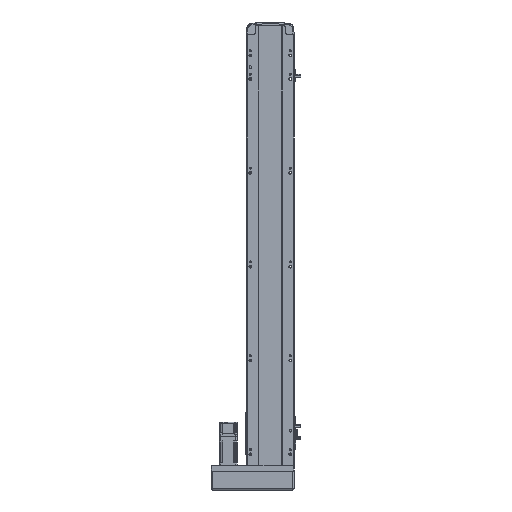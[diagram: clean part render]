
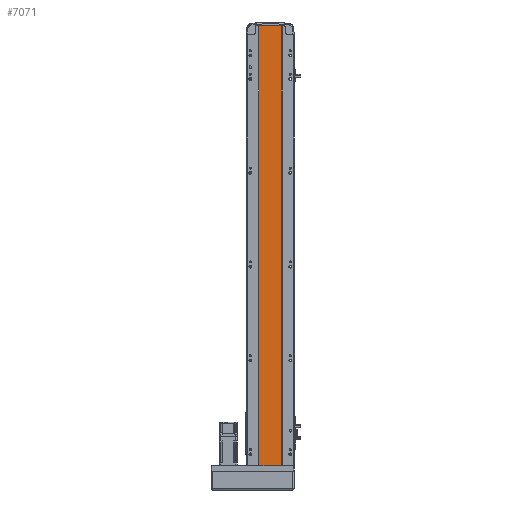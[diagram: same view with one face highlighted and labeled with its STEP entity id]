
A CAD part, front view. The second image highlights one B-rep face of the part: STEP entity #7071.
In plain terms, the highlighted planar face has unit normal (0, -1, 0).
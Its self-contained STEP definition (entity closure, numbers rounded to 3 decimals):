
#2517 = EDGE_CURVE ( 'NONE', #3959, #20239, #6930, .T. ) ;
#3959 = VERTEX_POINT ( 'NONE', #24185 ) ;
#4941 = EDGE_CURVE ( 'NONE', #6150, #14386, #35943, .T. ) ;
#6150 = VERTEX_POINT ( 'NONE', #15553 ) ;
#6930 = LINE ( 'NONE', #9440, #11215 ) ;
#7071 = ADVANCED_FACE ( 'NONE', ( #57685 ), #36446, .F. ) ;
#8954 = DIRECTION ( 'NONE',  ( 0., 0., 1. ) ) ;
#9440 = CARTESIAN_POINT ( 'NONE',  ( 0., 2., 0. ) ) ;
#10095 = CARTESIAN_POINT ( 'NONE',  ( -24.5, 2., 937. ) ) ;
#11215 = VECTOR ( 'NONE', #28001, 1000. ) ;
#11220 = ORIENTED_EDGE ( 'NONE', *, *, #19606, .F. ) ;
#11666 = CARTESIAN_POINT ( 'NONE',  ( 24.5, 2., 937. ) ) ;
#14386 = VERTEX_POINT ( 'NONE', #31330 ) ;
#14810 = AXIS2_PLACEMENT_3D ( 'NONE', #17899, #49751, #8954 ) ;
#15553 = CARTESIAN_POINT ( 'NONE',  ( -24.5, 2., 937. ) ) ;
#17899 = CARTESIAN_POINT ( 'NONE',  ( 0., 2., 937. ) ) ;
#19606 = EDGE_CURVE ( 'NONE', #14386, #20239, #20088, .T. ) ;
#20088 = LINE ( 'NONE', #11666, #42887 ) ;
#20239 = VERTEX_POINT ( 'NONE', #46620 ) ;
#22449 = VECTOR ( 'NONE', #46975, 1000. ) ;
#24185 = CARTESIAN_POINT ( 'NONE',  ( -24.5, 2., 0. ) ) ;
#26044 = ORIENTED_EDGE ( 'NONE', *, *, #2517, .T. ) ;
#27709 = EDGE_CURVE ( 'NONE', #6150, #3959, #45432, .T. ) ;
#28001 = DIRECTION ( 'NONE',  ( 1., 0., 0. ) ) ;
#31330 = CARTESIAN_POINT ( 'NONE',  ( 24.5, 2., 937. ) ) ;
#32566 = EDGE_LOOP ( 'NONE', ( #26044, #11220, #40932, #56829 ) ) ;
#35943 = LINE ( 'NONE', #51410, #22449 ) ;
#36446 = PLANE ( 'NONE',  #14810 ) ;
#38242 = VECTOR ( 'NONE', #46462, 1000. ) ;
#40932 = ORIENTED_EDGE ( 'NONE', *, *, #4941, .F. ) ;
#42887 = VECTOR ( 'NONE', #52474, 1000. ) ;
#45432 = LINE ( 'NONE', #10095, #38242 ) ;
#46462 = DIRECTION ( 'NONE',  ( 0., 0., -1. ) ) ;
#46620 = CARTESIAN_POINT ( 'NONE',  ( 24.5, 2., 0. ) ) ;
#46975 = DIRECTION ( 'NONE',  ( 1., 0., 0. ) ) ;
#49751 = DIRECTION ( 'NONE',  ( 0., 1., 0. ) ) ;
#51410 = CARTESIAN_POINT ( 'NONE',  ( -24.5, 2., 937. ) ) ;
#52474 = DIRECTION ( 'NONE',  ( 0., 0., -1. ) ) ;
#56829 = ORIENTED_EDGE ( 'NONE', *, *, #27709, .T. ) ;
#57685 = FACE_OUTER_BOUND ( 'NONE', #32566, .T. ) ;
